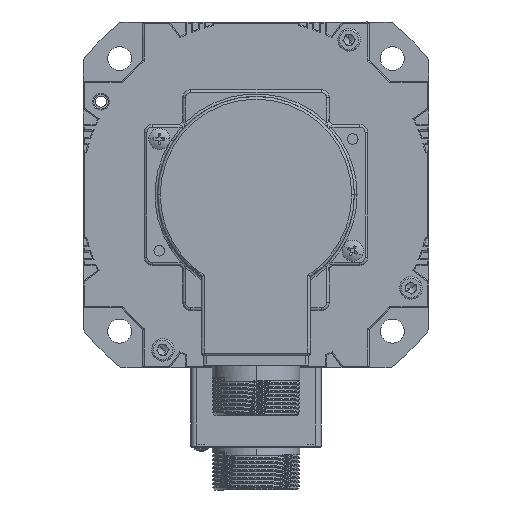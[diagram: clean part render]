
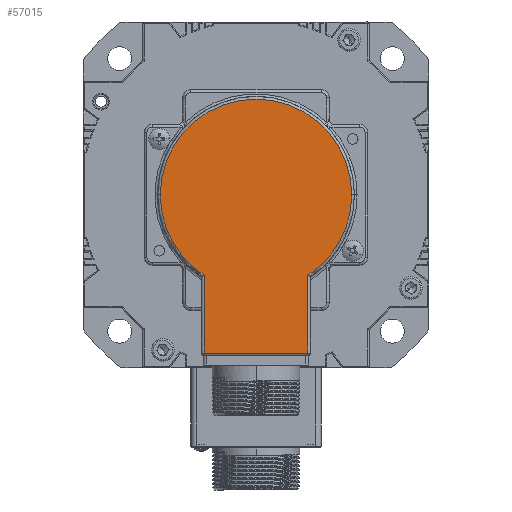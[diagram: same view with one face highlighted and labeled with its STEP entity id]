
A CAD part, front view. The second image highlights one B-rep face of the part: STEP entity #57015.
In plain terms, the highlighted planar face has unit normal (0, -1, 0) as drawn and (0, 0, -1) by its records, which use the part's own axes.
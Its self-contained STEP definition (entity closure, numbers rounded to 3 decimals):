
#3551 = EDGE_CURVE ( 'NONE', #36804, #12387, #24077, .T. ) ;
#6338 = LINE ( 'NONE', #20563, #11926 ) ;
#7381 = ORIENTED_EDGE ( 'NONE', *, *, #74892, .T. ) ;
#8954 = DIRECTION ( 'NONE',  ( 0., 1., 0. ) ) ;
#9638 = DIRECTION ( 'NONE',  ( -1., 0., 0. ) ) ;
#10328 = AXIS2_PLACEMENT_3D ( 'NONE', #33435, #33191, #9638 ) ;
#11926 = VECTOR ( 'NONE', #21088, 1000. ) ;
#12387 = VERTEX_POINT ( 'NONE', #63031 ) ;
#12852 = VERTEX_POINT ( 'NONE', #73726 ) ;
#20155 = DIRECTION ( 'NONE',  ( 0., 0., -1. ) ) ;
#20477 = FACE_OUTER_BOUND ( 'NONE', #37758, .T. ) ;
#20563 = CARTESIAN_POINT ( 'NONE',  ( 19.5, 30.802, -33. ) ) ;
#20945 = PLANE ( 'NONE',  #52228 ) ;
#21088 = DIRECTION ( 'NONE',  ( 0., -1., 0. ) ) ;
#24077 = CIRCLE ( 'NONE', #10328, 36. ) ;
#24440 = ORIENTED_EDGE ( 'NONE', *, *, #47720, .T. ) ;
#27760 = DIRECTION ( 'NONE',  ( -1., 0., 0. ) ) ;
#30647 = CIRCLE ( 'NONE', #50288, 36. ) ;
#32216 = DIRECTION ( 'NONE',  ( 1., 0., 0. ) ) ;
#33191 = DIRECTION ( 'NONE',  ( 0., 0., -1. ) ) ;
#33435 = CARTESIAN_POINT ( 'NONE',  ( 0., 0., -33. ) ) ;
#33713 = CARTESIAN_POINT ( 'NONE',  ( 19.5, 30.261, -33. ) ) ;
#36752 = CIRCLE ( 'NONE', #38403, 36. ) ;
#36804 = VERTEX_POINT ( 'NONE', #63875 ) ;
#37513 = EDGE_CURVE ( 'NONE', #64341, #63608, #64143, .T. ) ;
#37758 = EDGE_LOOP ( 'NONE', ( #7381, #69016, #55734, #44609, #24440, #57302 ) ) ;
#37929 = DIRECTION ( 'NONE',  ( 0., 0., -1. ) ) ;
#38403 = AXIS2_PLACEMENT_3D ( 'NONE', #43394, #37929, #72585 ) ;
#43394 = CARTESIAN_POINT ( 'NONE',  ( 0., 0., -33. ) ) ;
#44197 = CARTESIAN_POINT ( 'NONE',  ( 0., 0., -33. ) ) ;
#44609 = ORIENTED_EDGE ( 'NONE', *, *, #58125, .T. ) ;
#44756 = VERTEX_POINT ( 'NONE', #33713 ) ;
#46874 = LINE ( 'NONE', #67669, #72823 ) ;
#47720 = EDGE_CURVE ( 'NONE', #12852, #36804, #36752, .T. ) ;
#48105 = CARTESIAN_POINT ( 'NONE',  ( 19.5, 59.5, -33. ) ) ;
#50154 = DIRECTION ( 'NONE',  ( -1., 0., 0. ) ) ;
#50288 = AXIS2_PLACEMENT_3D ( 'NONE', #75563, #69899, #27760 ) ;
#52228 = AXIS2_PLACEMENT_3D ( 'NONE', #44197, #20155, #50154 ) ;
#55734 = ORIENTED_EDGE ( 'NONE', *, *, #59476, .T. ) ;
#56545 = CARTESIAN_POINT ( 'NONE',  ( -19.5, 59.5, -33. ) ) ;
#57015 = ADVANCED_FACE ( 'NONE', ( #20477 ), #20945, .T. ) ;
#57302 = ORIENTED_EDGE ( 'NONE', *, *, #3551, .T. ) ;
#58125 = EDGE_CURVE ( 'NONE', #44756, #12852, #30647, .T. ) ;
#59476 = EDGE_CURVE ( 'NONE', #63608, #44756, #6338, .T. ) ;
#63031 = CARTESIAN_POINT ( 'NONE',  ( -19.5, 30.261, -33. ) ) ;
#63608 = VERTEX_POINT ( 'NONE', #48105 ) ;
#63875 = CARTESIAN_POINT ( 'NONE',  ( -36., 0., -33. ) ) ;
#64143 = LINE ( 'NONE', #67619, #76150 ) ;
#64341 = VERTEX_POINT ( 'NONE', #56545 ) ;
#67619 = CARTESIAN_POINT ( 'NONE',  ( 20.5, 59.5, -33. ) ) ;
#67669 = CARTESIAN_POINT ( 'NONE',  ( -19.5, 60.5, -33. ) ) ;
#69016 = ORIENTED_EDGE ( 'NONE', *, *, #37513, .T. ) ;
#69899 = DIRECTION ( 'NONE',  ( 0., 0., -1. ) ) ;
#72585 = DIRECTION ( 'NONE',  ( -1., 0., 0. ) ) ;
#72823 = VECTOR ( 'NONE', #8954, 1000. ) ;
#73726 = CARTESIAN_POINT ( 'NONE',  ( 36., 0., -33. ) ) ;
#74892 = EDGE_CURVE ( 'NONE', #12387, #64341, #46874, .T. ) ;
#75563 = CARTESIAN_POINT ( 'NONE',  ( 0., 0., -33. ) ) ;
#76150 = VECTOR ( 'NONE', #32216, 1000. ) ;
